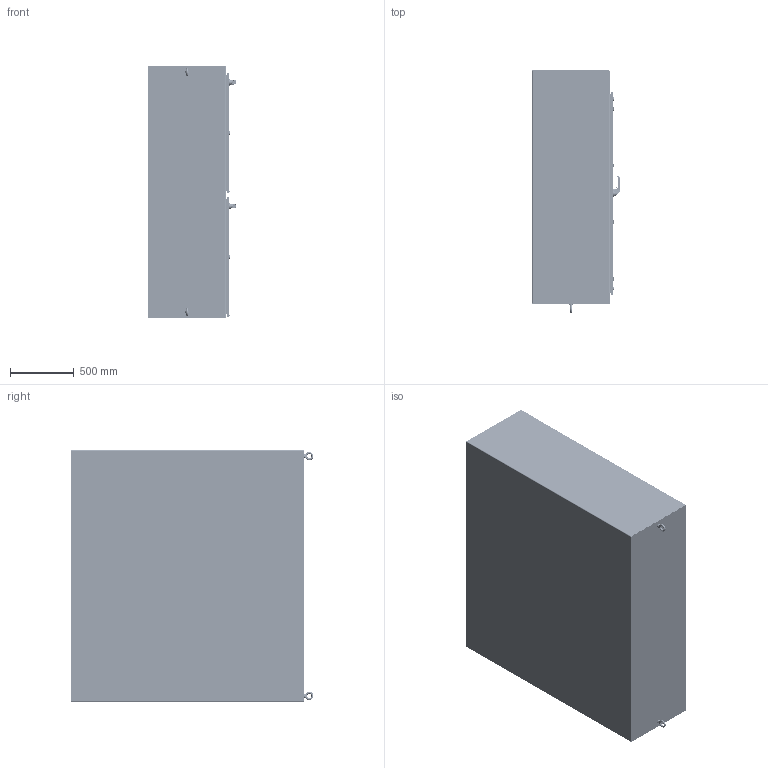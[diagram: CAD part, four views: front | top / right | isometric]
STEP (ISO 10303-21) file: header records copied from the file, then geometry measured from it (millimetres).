
FILE_DESCRIPTION((''),'2;1');
FILE_NAME('MODEL-224_ASM','2024-06-10T09:36:41',('mikek'),('SAGINAW CONTROL & ENGINEERING'),'CREO PARAMETRIC BY PTC INC, 2021284','CREO PARAMETRIC BY PTC INC, 2021284','');
FILE_SCHEMA(('AUTOMOTIVE_DESIGN { 1 0 10303 214 1 1 1 1 }'));
Length unit declared in the file: inch
Products named in the file (125): MODEL-224-TP; MODEL-224-R-SD; MODEL-224-L-SD; MODEL-224-BTM; MODEL-224-BCK; MODEL-224-SM-BRC; MODEL-224-M-DR; 100837; 111267; 100882; 100953_SCREW_MTG; 100953_PADLOCK_CATCH; 100953_SCREW_LARGE; 100953_INSERT_SHAFT; 100953_INSERT_PCH; 100953_GASKET; 100953_O-RING; 100953_BASE; 100953_SPRING; 100953_HANDLE; 100953_CAM_SHAFT; 100953_HANDLE_ASM; 100953_CAM_ADAPTER; 100953_EARTH_NUT; 100953_FLANGE_NUT; 100953_CAM_NUT; 100953_CP_INSERT; 100953_SPRING_CAM; 100953_TORSION_SPRING; 100953_SCREW_INSERT; 100953_ASM; 102237; 100030; 102237_ASM; MODEL-224-ROD-UPR-MD; 128146; 128145; 128144; 102482; MODEL-224-ROD-UPR-MD_ASM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
Assembly tree (261 placements, depth 5):
  MODEL-224_ASM
    MODEL-224-TP
    MODEL-224-R-SD
    MODEL-224-L-SD
    MODEL-224-BTM
    MODEL-224-BCK
    MODEL-224-SM-BRC  x2
    MODEL-224-M-DOOR-ASSY_ASM
      MODEL-224-M-DR
      100837  x7
      111267
      100882  x12
      100953_ASM
        100953_SCREW_MTG
        100953_PADLOCK_CATCH
        100953_SCREW_LARGE  x2
        100953_INSERT_SHAFT
        100953_INSERT_PCH
        100953_GASKET
        100953_O-RING
        100953_BASE
        100953_SPRING
        100953_HANDLE_ASM
          100953_HANDLE
          100953_CAM_SHAFT
        100953_CAM_ADAPTER
        100953_EARTH_NUT
        100953_FLANGE_NUT
        100953_CAM_NUT
        100953_CP_INSERT
        100953_SPRING_CAM
        100953_TORSION_SPRING
        100953_SCREW_INSERT
      102237_ASM
        102237
        100030  x2
      MODEL-224-ROD-UPR-MD_ASM
        MODEL-224-ROD-UPR-MD
        128146
        128145
        128144
        102482  x2
      128143  x2
      112504  x2
      MODEL-224-ROD-LWR-MD_ASM
        MODEL-224-ROD-LWR-MD
        128146
        128145
        128144
        102482  x2
      MODEL-224-PR-GSKT-M
      113885_ASM  x2
        113885_SHAFT
        113885_INSERT
        113885_CAM_30MM
        113885_NUT
        113885_SCREW
      128258_ASM  x4
        128258
      126395  x4
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Bounding box: 687.67 x 1903.6 x 1974.85 mm (x, y, z)
Volume: 46899984.9 mm3; surface area: 33906322.8 mm2
Topology: 301 solids, 301 shells, 28311 faces, 71744 edges, 44128 vertices
Faces by surface type: plane 10084, cylinder 7576, bspline 5889, torus 2190, cone 1419, sphere 828, extrusion 325
Entity records: 829941 total; most frequent: CARTESIAN_POINT 369177, ORIENTED_EDGE 71236, DIRECTION 65336, PRESENTATION_STYLE_ASSIGNMENT 36478, STYLED_ITEM 36088, CURVE_STYLE 35618, EDGE_CURVE 35618, AXIS2_PLACEMENT_3D 24207
